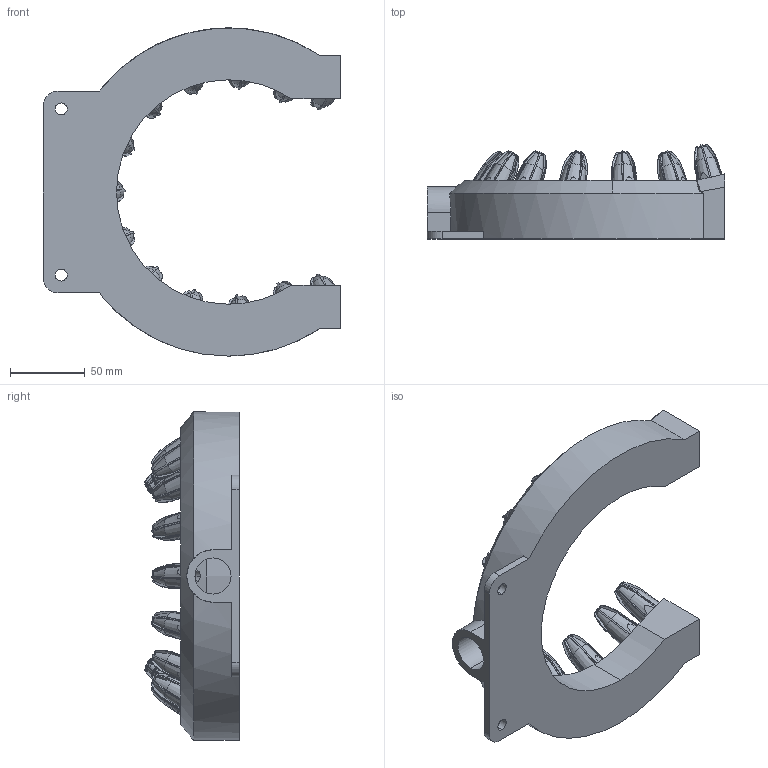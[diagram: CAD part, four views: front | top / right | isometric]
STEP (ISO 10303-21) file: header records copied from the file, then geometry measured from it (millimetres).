
FILE_DESCRIPTION (( 'STEP AP214' ), '1' );
FILE_NAME ('Silvent 463L.STEP', '2010-11-24T08:56:38', ( ' ' ), ( '' ), 'SwSTEP 2.0', 'SolidWorks 2010', '' );
FILE_SCHEMA (( 'AUTOMOTIVE_DESIGN' ));
Length unit declared in the file: millimetre
Products named in the file (1): Silvent 463L
Bounding box: 198.98 x 63.09 x 219.45 mm (x, y, z)
Volume: 382311.1 mm3; surface area: 138506 mm2
Topology: 14 solids, 14 shells, 852 faces, 2382 edges, 1573 vertices
Faces by surface type: plane 372, cylinder 258, cone 170, bspline 26, torus 26
Entity records: 41347 total; most frequent: CARTESIAN_POINT 10516, ORIENTED_EDGE 4764, DIRECTION 4184, EDGE_CURVE 2382, AXIS2_PLACEMENT_3D 1670, VERTEX_POINT 1573, EDGE_LOOP 897, UNCERTAINTY_MEASURE_WITH_UNIT 868
